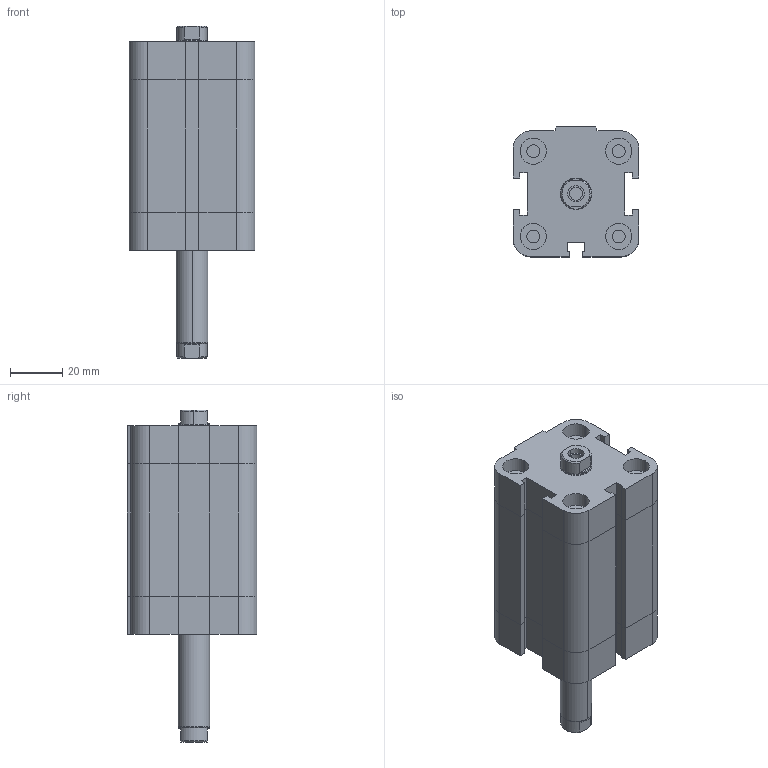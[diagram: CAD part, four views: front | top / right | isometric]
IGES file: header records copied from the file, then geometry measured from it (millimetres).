
Global section: file name: No Iges File Name specified; native system: Autodesk Inventor 2009; preprocessor: AutoDesk Inventor Iges Exporter R2009; author: maffial1; date: 20090420.200338; units: millimetre
Bounding box: 48 x 49.5 x 126.5 mm (x, y, z)
Volume: 164957.2 mm3; surface area: 34300.3 mm2
Topology: 2 solids, 2 shells, 202 faces, 450 edges, 274 vertices
Faces by surface type: plane 114, bspline 42, revolution 20, cylinder 18, cone 8
